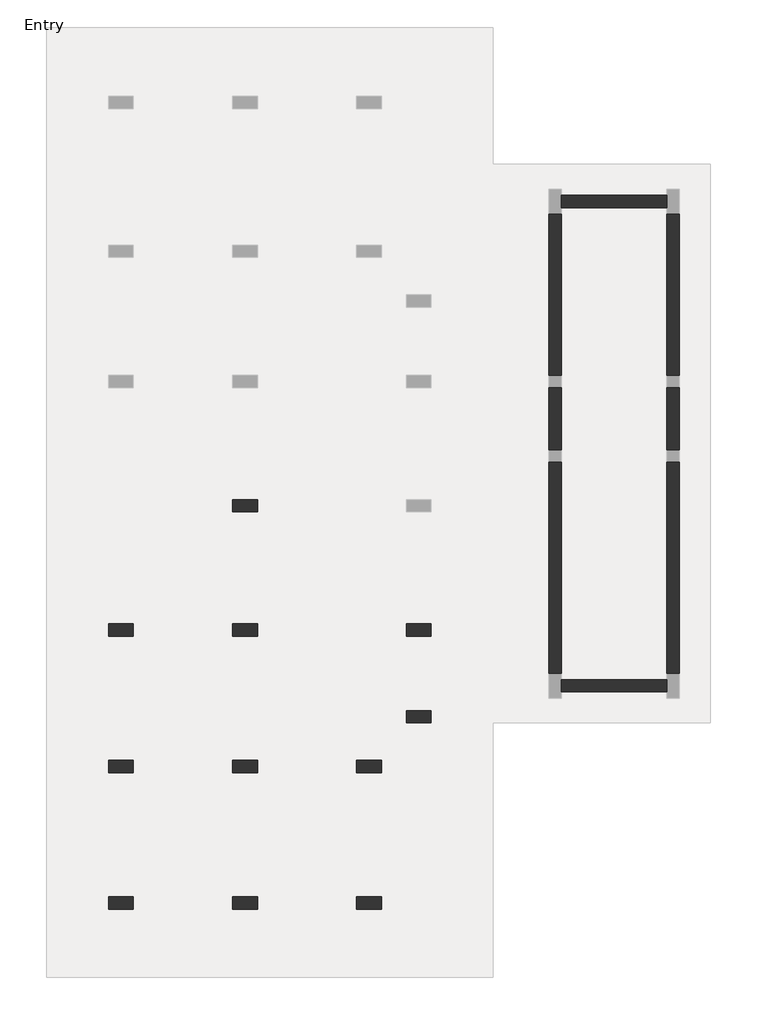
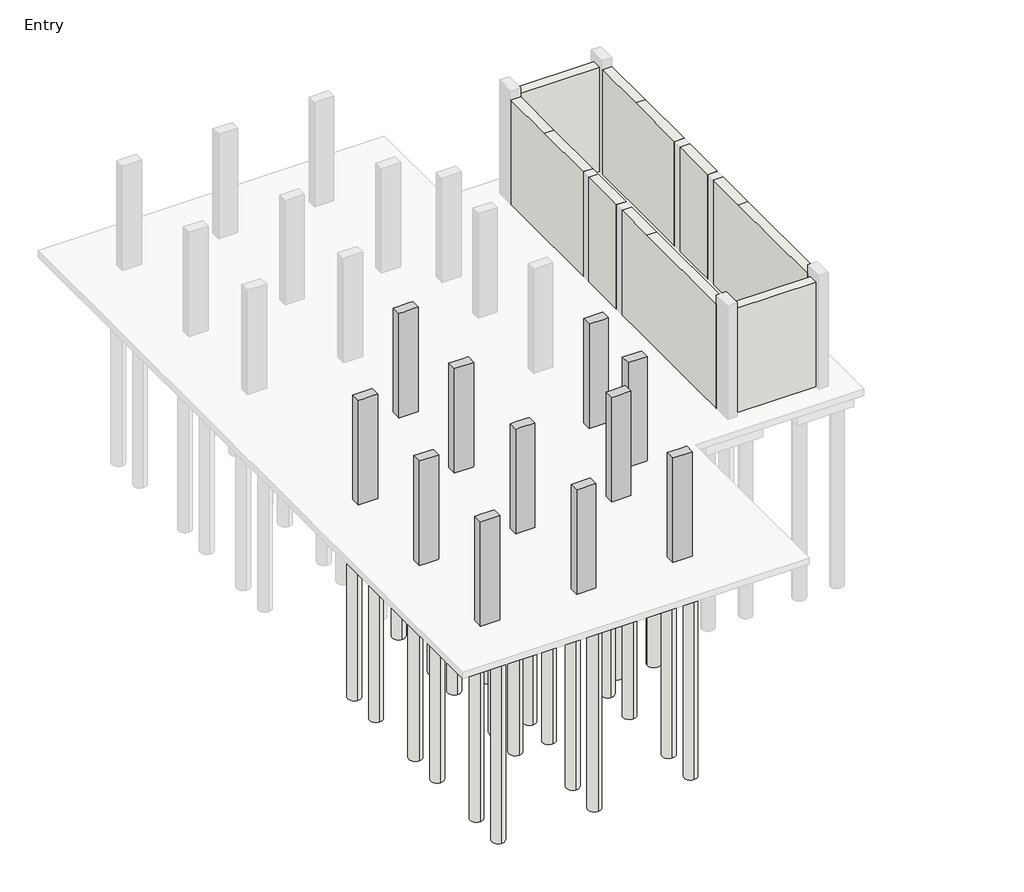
# One storey, part 1 of 3: 37 slabs, 11 columns, 8 walls.
"""IFC4 building model written with IfcOpenShell, lengths in millimetres."""

from ifc_helpers import new_model, si_unit, point, frame, frame_2d, origin, origin_with_axes, place, context, project, spatial, polyline, circle_curve, trimmed, segment, composite_curve, outline, extrude, faceted_brep, element, save

model = new_model("IFC4")

# Units and contexts
model_context = context("Model", 3, world=origin())
ifc_project = project(units=[si_unit("LENGTHUNIT", "METRE", prefix="MILLI")], contexts=[model_context])

# Site, building, storey
site = spatial("IfcSite", under=ifc_project)
building = spatial("IfcBuilding", under=site)
storey = spatial("IfcBuildingStorey", under=building, Name="Entry", Elevation=0.0)

# Columns
placement = place(None, origin())
element("IfcColumn", 1, ObjectType="Concrete-Rectangular-Column : 12 x 24", at=placement, inside=storey, context=model_context, shape_type="Brep", body=[
    faceted_brep([(-12629.5554735, 4740.9867088, 0.0), (-12019.9554735, 4740.9867088, 0.0), (-12019.9554735, 4436.1867088, 0.0), (-12629.5554735, 4436.1867088, 0.0), (-12629.5554735, 4740.9867088, 3505.2), (-12477.1554735, 4740.9867088, 3505.2), (-12172.3554735, 4740.9867088, 3505.2), (-12019.9554735, 4740.9867088, 3505.2), (-12019.9554735, 4740.9867088, 2895.6), (-12019.9554735, 4436.1867088, 3505.2), (-12019.9554735, 4436.1867088, 2895.6), (-12172.3554735, 4436.1867088, 3505.2), (-12477.1554735, 4436.1867088, 3505.2), (-12629.5554735, 4436.1867088, 3505.2)], [[[0, 1, 2, 3]], [[4, 5, 6, 7, 8, 1, 0]], [[7, 9, 10, 2, 1, 8]], [[9, 11, 12, 13, 3, 2, 10]], [[13, 4, 0, 3]], [[4, 13, 12, 11, 9, 7, 6, 5]]]),
])
element("IfcColumn", 2, ObjectType="Concrete-Rectangular-Column : 12 x 24", at=placement, inside=storey, context=model_context, shape_type="Brep", body=[
    faceted_brep([(-12629.5554735, 1692.9867088, 0.0), (-12019.9554735, 1692.9867088, 0.0), (-12019.9554735, 1388.1867088, 0.0), (-12629.5554735, 1388.1867088, 0.0), (-12629.5554735, 1692.9867088, 3505.2), (-12477.1554735, 1692.9867088, 3505.2), (-12172.3554735, 1692.9867088, 3505.2), (-12019.9554735, 1692.9867088, 3505.2), (-12019.9554735, 1692.9867088, 2895.6), (-12629.5554735, 1692.9867088, 2895.6), (-12019.9554735, 1388.1867088, 3505.2), (-12019.9554735, 1388.1867088, 2895.6), (-12172.3554735, 1388.1867088, 3505.2), (-12477.1554735, 1388.1867088, 3505.2), (-12629.5554735, 1388.1867088, 3505.2), (-12629.5554735, 1388.1867088, 2895.6)], [[[0, 1, 2, 3]], [[4, 5, 6, 7, 8, 1, 0, 9]], [[7, 10, 11, 2, 1, 8]], [[10, 12, 13, 14, 15, 3, 2, 11]], [[14, 4, 9, 0, 3, 15]], [[4, 14, 13, 12, 10, 7, 6, 5]]]),
])
element("IfcColumn", 3, ObjectType="Concrete-Rectangular-Column : 12 x 24", at=placement, inside=storey, context=model_context, shape_type="Brep", body=[
    faceted_brep([(-12629.5554735, -1659.8132912, 0.0), (-12019.9554735, -1659.8132912, 0.0), (-12019.9554735, -1964.6132912, 0.0), (-12629.5554735, -1964.6132912, 0.0), (-12629.5554735, -1659.8132912, 3505.2), (-12477.1554735, -1659.8132912, 3505.2), (-12172.3554735, -1659.8132912, 3505.2), (-12019.9554735, -1659.8132912, 3505.2), (-12019.9554735, -1659.8132912, 2895.6), (-12629.5554735, -1659.8132912, 2895.6), (-12019.9554735, -1964.6132912, 3505.2), (-12019.9554735, -1964.6132912, 2895.6), (-12172.3554735, -1964.6132912, 3505.2), (-12477.1554735, -1964.6132912, 3505.2), (-12629.5554735, -1964.6132912, 3505.2), (-12629.5554735, -1964.6132912, 2895.6)], [[[0, 1, 2, 3]], [[4, 5, 6, 7, 8, 1, 0, 9]], [[7, 10, 11, 2, 1, 8]], [[10, 12, 13, 14, 15, 3, 2, 11]], [[14, 4, 9, 0, 3, 15]], [[4, 14, 13, 12, 10, 7, 6, 5]]]),
])
element("IfcColumn", 4, ObjectType="Concrete-Rectangular-Column : 12 x 24", at=placement, inside=storey, context=model_context, shape_type="Brep", body=[
    faceted_brep([(-12629.5554735, -5012.6132912, 0.0), (-12019.9554735, -5012.6132912, 0.0), (-12019.9554735, -5317.4132912, 0.0), (-12629.5554735, -5317.4132912, 0.0), (-12629.5554735, -5012.6132912, 3505.2), (-12477.1554735, -5012.6132912, 3505.2), (-12172.3554735, -5012.6132912, 3505.2), (-12019.9554735, -5012.6132912, 3505.2), (-12019.9554735, -5012.6132912, 2895.6), (-12629.5554735, -5012.6132912, 2895.6), (-12019.9554735, -5317.4132912, 3505.2), (-12019.9554735, -5317.4132912, 2895.6), (-12629.5554735, -5317.4132912, 3505.2), (-12629.5554735, -5317.4132912, 2895.6)], [[[0, 1, 2, 3]], [[4, 5, 6, 7, 8, 1, 0, 9]], [[7, 10, 11, 2, 1, 8]], [[10, 12, 13, 3, 2, 11]], [[12, 4, 9, 0, 3, 13]], [[4, 12, 10, 7, 6, 5]]]),
])
element("IfcColumn", 5, ObjectType="Concrete-Rectangular-Column : 12 x 24", at=placement, inside=storey, context=model_context, shape_type="Brep", body=[
    faceted_brep([(-15677.5554735, -1659.8132912, 0.0), (-15067.9554735, -1659.8132912, 0.0), (-15067.9554735, -1964.6132912, 0.0), (-15677.5554735, -1964.6132912, 0.0), (-15677.5554735, -1659.8132912, 3505.2), (-15525.1554735, -1659.8132912, 3505.2), (-15220.3554735, -1659.8132912, 3505.2), (-15067.9554735, -1659.8132912, 3505.2), (-15067.9554735, -1659.8132912, 2895.6), (-15067.9554735, -1964.6132912, 3505.2), (-15067.9554735, -1964.6132912, 2895.6), (-15220.3554735, -1964.6132912, 3505.2), (-15525.1554735, -1964.6132912, 3505.2), (-15677.5554735, -1964.6132912, 3505.2)], [[[0, 1, 2, 3]], [[4, 5, 6, 7, 8, 1, 0]], [[7, 9, 10, 2, 1, 8]], [[9, 11, 12, 13, 3, 2, 10]], [[13, 4, 0, 3]], [[4, 13, 12, 11, 9, 7, 6, 5]]]),
])
element("IfcColumn", 6, ObjectType="Concrete-Rectangular-Column : 12 x 24", at=placement, inside=storey, context=model_context, shape_type="Brep", body=[
    faceted_brep([(-15677.5554735, -5012.6132912, 0.0), (-15067.9554735, -5012.6132912, 0.0), (-15067.9554735, -5317.4132912, 0.0), (-15677.5554735, -5317.4132912, 0.0), (-15677.5554735, -5012.6132912, 3505.2), (-15525.1554735, -5012.6132912, 3505.2), (-15220.3554735, -5012.6132912, 3505.2), (-15067.9554735, -5012.6132912, 3505.2), (-15067.9554735, -5012.6132912, 2895.6), (-15067.9554735, -5317.4132912, 3505.2), (-15067.9554735, -5317.4132912, 2895.6), (-15677.5554735, -5317.4132912, 3505.2)], [[[0, 1, 2, 3]], [[4, 5, 6, 7, 8, 1, 0]], [[7, 9, 10, 2, 1, 8]], [[9, 11, 3, 2, 10]], [[11, 4, 0, 3]], [[4, 11, 9, 7, 6, 5]]]),
])
element("IfcColumn", 7, ObjectType="Concrete-Rectangular-Column : 12 x 24", at=placement, inside=storey, context=model_context, shape_type="Brep", body=[
    faceted_brep([(-15677.5554735, 1692.9867088, 0.0), (-15067.9554735, 1692.9867088, 0.0), (-15067.9554735, 1388.1867088, 0.0), (-15677.5554735, 1388.1867088, 0.0), (-15677.5554735, 1692.9867088, 3505.2), (-15067.9554735, 1692.9867088, 3505.2), (-15067.9554735, 1692.9867088, 2895.6), (-15067.9554735, 1388.1867088, 3505.2), (-15067.9554735, 1388.1867088, 2895.6), (-15220.3554735, 1388.1867088, 3505.2), (-15525.1554735, 1388.1867088, 3505.2), (-15677.5554735, 1388.1867088, 3505.2)], [[[0, 1, 2, 3]], [[4, 5, 6, 1, 0]], [[5, 7, 8, 2, 1, 6]], [[7, 9, 10, 11, 3, 2, 8]], [[11, 4, 0, 3]], [[4, 11, 10, 9, 7, 5]]]),
])
element("IfcColumn", 8, ObjectType="Concrete-Rectangular-Column : 12 x 24", at=placement, inside=storey, context=model_context, shape_type="Brep", body=[
    faceted_brep([(-8362.3554735, 1692.9867088, 0.0), (-7752.7554735, 1692.9867088, 0.0), (-7752.7554735, 1388.1867088, 0.0), (-8362.3554735, 1388.1867088, 0.0), (-8362.3554735, 1692.9867088, 3505.2), (-8209.9554735, 1692.9867088, 3505.2), (-7905.1554735, 1692.9867088, 3505.2), (-7752.7554735, 1692.9867088, 3505.2), (-8362.3554735, 1692.9867088, 2895.6), (-7752.7554735, 1388.1867088, 3505.2), (-7905.1554735, 1388.1867088, 3505.2), (-8209.9554735, 1388.1867088, 3505.2), (-8362.3554735, 1388.1867088, 3505.2), (-8362.3554735, 1388.1867088, 2895.6)], [[[0, 1, 2, 3]], [[4, 5, 6, 7, 1, 0, 8]], [[7, 9, 2, 1]], [[9, 10, 11, 12, 13, 3, 2]], [[12, 4, 8, 0, 3, 13]], [[4, 12, 11, 10, 9, 7, 6, 5]]]),
])
element("IfcColumn", 9, ObjectType="Concrete-Rectangular-Column : 12 x 24", at=placement, inside=storey, context=model_context, shape_type="Brep", body=[
    faceted_brep([(-9581.5554735, -1659.8132912, 0.0), (-8971.9554735, -1659.8132912, 0.0), (-8971.9554735, -1964.6132912, 0.0), (-9581.5554735, -1964.6132912, 0.0), (-9581.5554735, -1659.8132912, 3505.2), (-9429.1554735, -1659.8132912, 3505.2), (-9124.3554735, -1659.8132912, 3505.2), (-8971.9554735, -1659.8132912, 3505.2), (-9581.5554735, -1659.8132912, 2895.6), (-8971.9554735, -1964.6132912, 3505.2), (-9124.3554735, -1964.6132912, 3505.2), (-9429.1554735, -1964.6132912, 3505.2), (-9581.5554735, -1964.6132912, 3505.2), (-9581.5554735, -1964.6132912, 2895.6)], [[[0, 1, 2, 3]], [[4, 5, 6, 7, 1, 0, 8]], [[7, 9, 2, 1]], [[9, 10, 11, 12, 13, 3, 2]], [[12, 4, 8, 0, 3, 13]], [[4, 12, 11, 10, 9, 7, 6, 5]]]),
])
element("IfcColumn", 10, ObjectType="Concrete-Rectangular-Column : 12 x 24", at=placement, inside=storey, context=model_context, shape_type="Brep", body=[
    faceted_brep([(-9581.5554735, -5012.6132912, 0.0), (-8971.9554735, -5012.6132912, 0.0), (-8971.9554735, -5317.4132912, 0.0), (-9581.5554735, -5317.4132912, 0.0), (-9581.5554735, -5012.6132912, 3505.2), (-9429.1554735, -5012.6132912, 3505.2), (-9124.3554735, -5012.6132912, 3505.2), (-8971.9554735, -5012.6132912, 3505.2), (-9581.5554735, -5012.6132912, 2895.6), (-8971.9554735, -5317.4132912, 3505.2), (-9581.5554735, -5317.4132912, 3505.2), (-9581.5554735, -5317.4132912, 2895.6)], [[[0, 1, 2, 3]], [[4, 5, 6, 7, 1, 0, 8]], [[7, 9, 2, 1]], [[9, 10, 11, 3, 2]], [[10, 4, 8, 0, 3, 11]], [[4, 10, 9, 7, 6, 5]]]),
])
element("IfcColumn", 11, ObjectType="Concrete-Rectangular-Column : 12 x 24", at=placement, inside=storey, context=model_context, shape_type="Brep", body=[
    faceted_brep([(-8362.3554735, -440.6132912, 0.0), (-7752.7554735, -440.6132912, 0.0), (-7752.7554735, -745.4132912, 0.0), (-8362.3554735, -745.4132912, 0.0), (-8362.3554735, -440.6132912, 3505.2), (-8209.9554735, -440.6132912, 3505.2), (-7905.1554735, -440.6132912, 3505.2), (-7752.7554735, -440.6132912, 3505.2), (-8362.3554735, -440.6132912, 2895.6), (-7752.7554735, -745.4132912, 3505.2), (-8362.3554735, -745.4132912, 3505.2), (-8362.3554735, -745.4132912, 2895.6)], [[[0, 1, 2, 3]], [[4, 5, 6, 7, 1, 0, 8]], [[7, 9, 2, 1]], [[9, 10, 11, 3, 2]], [[10, 4, 8, 0, 3, 11]], [[4, 10, 9, 7, 6, 5]]]),
])

# Slabs
element("IfcSlab", 12, ObjectType="Pile Cap-2 Pile : 31\"x61\"x35\"", at=placement, inside=storey, context=model_context, shape_type="SweptSolid", body=[
    extrude(outline(polyline([(-15779.1554735, 2442.2867088), (-14966.3554735, 2442.2867088), (-14966.3554735, 638.8867088), (-15779.1554735, 638.8867088), (-15779.1554735, 2442.2867088)])), frame((0.0, 0.0, -889.0), z_axis=(0.0, 0.0, 1.0), x_axis=(1.0, 0.0, 0.0)), (0.0, 0.0, 1.0), 685.8),
])
element("IfcSlab", 13, ObjectType="Pile Cap-2 Pile : 31\"x61\"x35\"", at=placement, inside=storey, context=model_context, shape_type="SweptSolid", body=[
    extrude(outline(polyline([(-15779.1554735, -910.5132912), (-14966.3554735, -910.5132912), (-14966.3554735, -2713.9132912), (-15779.1554735, -2713.9132912), (-15779.1554735, -910.5132912)])), frame((0.0, 0.0, -889.0), z_axis=(0.0, 0.0, 1.0), x_axis=(1.0, 0.0, 0.0)), (0.0, 0.0, 1.0), 685.8),
])
element("IfcSlab", 14, ObjectType="Pile Cap-2 Pile : 31\"x61\"x35\"", at=placement, inside=storey, context=model_context, shape_type="SweptSolid", body=[
    extrude(outline(polyline([(-15779.1554735, -4263.3132912), (-14966.3554735, -4263.3132912), (-14966.3554735, -6066.7132912), (-15779.1554735, -6066.7132912), (-15779.1554735, -4263.3132912)])), frame((0.0, 0.0, -889.0), z_axis=(0.0, 0.0, 1.0), x_axis=(1.0, 0.0, 0.0)), (0.0, 0.0, 1.0), 685.8),
])
element("IfcSlab", 15, ObjectType="Pile Cap-2 Pile : 31\"x61\"x35\"", at=placement, inside=storey, context=model_context, shape_type="SweptSolid", body=[
    extrude(outline(polyline([(-12731.1554735, -4263.3132912), (-11918.3554735, -4263.3132912), (-11918.3554735, -6066.7132912), (-12731.1554735, -6066.7132912), (-12731.1554735, -4263.3132912)])), frame((0.0, 0.0, -889.0), z_axis=(0.0, 0.0, 1.0), x_axis=(1.0, 0.0, 0.0)), (0.0, 0.0, 1.0), 685.8),
])
element("IfcSlab", 16, ObjectType="Pile Cap-2 Pile : 31\"x61\"x35\"", at=placement, inside=storey, context=model_context, shape_type="SweptSolid", body=[
    extrude(outline(polyline([(-9683.1554735, -4263.3132912), (-8870.3554735, -4263.3132912), (-8870.3554735, -6066.7132912), (-9683.1554735, -6066.7132912), (-9683.1554735, -4263.3132912)])), frame((0.0, 0.0, -889.0), z_axis=(0.0, 0.0, 1.0), x_axis=(1.0, 0.0, 0.0)), (0.0, 0.0, 1.0), 685.8),
])
element("IfcSlab", 17, ObjectType="Pile Cap-2 Pile : 31\"x61\"x35\"", at=placement, inside=storey, context=model_context, shape_type="Brep", body=[
    faceted_brep([(-9683.1554735, -910.5132912, -889.0), (-8959.2554735, -910.5132912, -889.0), (-8870.3554735, -910.5132912, -889.0), (-8870.3554735, -999.4132912, -889.0), (-8870.3554735, -2713.9132912, -889.0), (-9683.1554735, -2713.9132912, -889.0), (-9683.1554735, -2713.9132912, -203.2), (-9683.1554735, -910.5132912, -203.2), (-8870.3554735, -2713.9132912, -203.2), (-8870.3554735, -910.5132912, -203.2), (-8870.3554735, -999.4132912, -203.2), (-8959.2554735, -910.5132912, -203.2)], [[[0, 1, 2, 3, 4, 5]], [[0, 5, 6, 7]], [[5, 4, 8, 6]], [[4, 3, 2, 9, 10, 8]], [[2, 1, 0, 7, 11, 9]], [[7, 6, 8, 10, 9, 11]]]),
])
element("IfcSlab", 18, ObjectType="Pile Cap-2 Pile : 31\"x61\"x35\"", at=placement, inside=storey, context=model_context, shape_type="SweptSolid", body=[
    extrude(outline(polyline([(-8463.9554735, 2442.2867088), (-7651.1554735, 2442.2867088), (-7651.1554735, 638.8867088), (-8463.9554735, 638.8867088), (-8463.9554735, 2442.2867088)])), frame((0.0, 0.0, -889.0), z_axis=(0.0, 0.0, 1.0), x_axis=(1.0, 0.0, 0.0)), (0.0, 0.0, 1.0), 685.8),
])
element("IfcSlab", 19, ObjectType="Pile Cap-2 Pile : 31\"x61\"x35\"", at=placement, inside=storey, context=model_context, shape_type="SweptSolid", body=[
    extrude(outline(polyline([(-7155.8554735, -186.6132912), (-7155.8554735, -999.4132912), (-8870.3554735, -999.4132912), (-8870.3554735, -910.5132912), (-8959.2554735, -910.5132912), (-8959.2554735, -186.6132912), (-7155.8554735, -186.6132912)])), frame((0.0, 0.0, -889.0), z_axis=(0.0, 0.0, 1.0), x_axis=(1.0, 0.0, 0.0)), (0.0, 0.0, 1.0), 685.8),
])
element("IfcSlab", 20, ObjectType="Pile Cap-4 Pile : 72\"x72\"x35\"", at=placement, inside=storey, context=model_context, shape_type="SweptSolid", body=[
    extrude(outline(polyline([(-13239.1554735, 5502.9867088), (-11410.3554735, 5502.9867088), (-11410.3554735, 3674.1867088), (-13239.1554735, 3674.1867088), (-13239.1554735, 5502.9867088)])), frame((0.0, 0.0, -889.0), z_axis=(0.0, 0.0, 1.0), x_axis=(1.0, 0.0, 0.0)), (0.0, 0.0, 1.0), 685.8),
])
element("IfcSlab", 21, ObjectType="Pile Cap-4 Pile : 72\"x72\"x35\"", at=placement, inside=storey, context=model_context, shape_type="SweptSolid", body=[
    extrude(outline(polyline([(-13239.1554735, 2454.9867088), (-11410.3554735, 2454.9867088), (-11410.3554735, 626.1867088), (-13239.1554735, 626.1867088), (-13239.1554735, 2454.9867088)])), frame((0.0, 0.0, -889.0), z_axis=(0.0, 0.0, 1.0), x_axis=(1.0, 0.0, 0.0)), (0.0, 0.0, 1.0), 685.8),
])
element("IfcSlab", 22, ObjectType="Pile Cap-4 Pile : 72\"x72\"x35\"", at=placement, inside=storey, context=model_context, shape_type="SweptSolid", body=[
    extrude(outline(polyline([(-13239.1554735, -897.8132912), (-11410.3554735, -897.8132912), (-11410.3554735, -2726.6132912), (-13239.1554735, -2726.6132912), (-13239.1554735, -897.8132912)])), frame((0.0, 0.0, -889.0), z_axis=(0.0, 0.0, 1.0), x_axis=(1.0, 0.0, 0.0)), (0.0, 0.0, 1.0), 685.8),
])
element("IfcSlab", 23, ObjectType="Pile-Steel Pipe : 16\" Diameter", at=placement, inside=storey, context=model_context, shape_type="SweptSolid", body=[
    extrude(outline(composite_curve([segment(trimmed(circle_curve(frame_2d((-12858.1554735, 4055.1867088)), 203.2), [point((-12858.1554735, 3851.9867088))], [point((-12858.1554735, 4258.3867088))], False, "CARTESIAN"), True, "CONTINUOUS"), segment(trimmed(circle_curve(frame_2d((-12858.1554735, 4055.1867088)), 203.2), [point((-12858.1554735, 4258.3867088))], [point((-12858.1554735, 3851.9867088))], False, "CARTESIAN"), True, "CONTINUOUS")], self_intersect=False)), frame((0.0, 0.0, -6985.0), z_axis=(0.0, 0.0, 1.0), x_axis=(1.0, 0.0, 0.0)), (0.0, 0.0, 1.0), 6096.0),
])
element("IfcSlab", 24, ObjectType="Pile-Steel Pipe : 16\" Diameter", at=placement, inside=storey, context=model_context, shape_type="SweptSolid", body=[
    extrude(outline(composite_curve([segment(trimmed(circle_curve(frame_2d((-12858.1554735, 1007.1867088)), 203.2), [point((-12858.1554735, 803.9867088))], [point((-12858.1554735, 1210.3867088))], False, "CARTESIAN"), True, "CONTINUOUS"), segment(trimmed(circle_curve(frame_2d((-12858.1554735, 1007.1867088)), 203.2), [point((-12858.1554735, 1210.3867088))], [point((-12858.1554735, 803.9867088))], False, "CARTESIAN"), True, "CONTINUOUS")], self_intersect=False)), frame((0.0, 0.0, -6985.0), z_axis=(0.0, 0.0, 1.0), x_axis=(1.0, 0.0, 0.0)), (0.0, 0.0, 1.0), 6096.0),
])
element("IfcSlab", 25, ObjectType="Pile-Steel Pipe : 16\" Diameter", at=placement, inside=storey, context=model_context, shape_type="SweptSolid", body=[
    extrude(outline(composite_curve([segment(trimmed(circle_curve(frame_2d((-11791.3554735, 1007.1867088)), 203.2), [point((-11791.3554735, 803.9867088))], [point((-11791.3554735, 1210.3867088))], False, "CARTESIAN"), True, "CONTINUOUS"), segment(trimmed(circle_curve(frame_2d((-11791.3554735, 1007.1867088)), 203.2), [point((-11791.3554735, 1210.3867088))], [point((-11791.3554735, 803.9867088))], False, "CARTESIAN"), True, "CONTINUOUS")], self_intersect=False)), frame((0.0, 0.0, -6985.0), z_axis=(0.0, 0.0, 1.0), x_axis=(1.0, 0.0, 0.0)), (0.0, 0.0, 1.0), 6096.0),
])
element("IfcSlab", 26, ObjectType="Pile-Steel Pipe : 16\" Diameter", at=placement, inside=storey, context=model_context, shape_type="SweptSolid", body=[
    extrude(outline(composite_curve([segment(trimmed(circle_curve(frame_2d((-11791.3554735, 2073.9867088)), 203.2), [point((-11791.3554735, 1870.7867088))], [point((-11791.3554735, 2277.1867088))], False, "CARTESIAN"), True, "CONTINUOUS"), segment(trimmed(circle_curve(frame_2d((-11791.3554735, 2073.9867088)), 203.2), [point((-11791.3554735, 2277.1867088))], [point((-11791.3554735, 1870.7867088))], False, "CARTESIAN"), True, "CONTINUOUS")], self_intersect=False)), frame((0.0, 0.0, -6985.0), z_axis=(0.0, 0.0, 1.0), x_axis=(1.0, 0.0, 0.0)), (0.0, 0.0, 1.0), 6096.0),
])
element("IfcSlab", 27, ObjectType="Pile-Steel Pipe : 16\" Diameter", at=placement, inside=storey, context=model_context, shape_type="SweptSolid", body=[
    extrude(outline(composite_curve([segment(trimmed(circle_curve(frame_2d((-12858.1554735, 2073.9867088)), 203.2), [point((-12858.1554735, 1870.7867088))], [point((-12858.1554735, 2277.1867088))], False, "CARTESIAN"), True, "CONTINUOUS"), segment(trimmed(circle_curve(frame_2d((-12858.1554735, 2073.9867088)), 203.2), [point((-12858.1554735, 2277.1867088))], [point((-12858.1554735, 1870.7867088))], False, "CARTESIAN"), True, "CONTINUOUS")], self_intersect=False)), frame((0.0, 0.0, -6985.0), z_axis=(0.0, 0.0, 1.0), x_axis=(1.0, 0.0, 0.0)), (0.0, 0.0, 1.0), 6096.0),
])
element("IfcSlab", 28, ObjectType="Pile-Steel Pipe : 16\" Diameter", at=placement, inside=storey, context=model_context, shape_type="SweptSolid", body=[
    extrude(outline(composite_curve([segment(trimmed(circle_curve(frame_2d((-12858.1554735, -2345.6132912)), 203.2), [point((-12858.1554735, -2548.8132912))], [point((-12858.1554735, -2142.4132912))], False, "CARTESIAN"), True, "CONTINUOUS"), segment(trimmed(circle_curve(frame_2d((-12858.1554735, -2345.6132912)), 203.2), [point((-12858.1554735, -2142.4132912))], [point((-12858.1554735, -2548.8132912))], False, "CARTESIAN"), True, "CONTINUOUS")], self_intersect=False)), frame((0.0, 0.0, -6985.0), z_axis=(0.0, 0.0, 1.0), x_axis=(1.0, 0.0, 0.0)), (0.0, 0.0, 1.0), 6096.0),
])
element("IfcSlab", 29, ObjectType="Pile-Steel Pipe : 16\" Diameter", at=placement, inside=storey, context=model_context, shape_type="SweptSolid", body=[
    extrude(outline(composite_curve([segment(trimmed(circle_curve(frame_2d((-11791.3554735, -2345.6132912)), 203.2), [point((-11791.3554735, -2548.8132912))], [point((-11791.3554735, -2142.4132912))], False, "CARTESIAN"), True, "CONTINUOUS"), segment(trimmed(circle_curve(frame_2d((-11791.3554735, -2345.6132912)), 203.2), [point((-11791.3554735, -2142.4132912))], [point((-11791.3554735, -2548.8132912))], False, "CARTESIAN"), True, "CONTINUOUS")], self_intersect=False)), frame((0.0, 0.0, -6985.0), z_axis=(0.0, 0.0, 1.0), x_axis=(1.0, 0.0, 0.0)), (0.0, 0.0, 1.0), 6096.0),
])
element("IfcSlab", 30, ObjectType="Pile-Steel Pipe : 16\" Diameter", at=placement, inside=storey, context=model_context, shape_type="SweptSolid", body=[
    extrude(outline(composite_curve([segment(trimmed(circle_curve(frame_2d((-11791.3554735, -1278.8132912)), 203.2), [point((-11791.3554735, -1482.0132912))], [point((-11791.3554735, -1075.6132912))], False, "CARTESIAN"), True, "CONTINUOUS"), segment(trimmed(circle_curve(frame_2d((-11791.3554735, -1278.8132912)), 203.2), [point((-11791.3554735, -1075.6132912))], [point((-11791.3554735, -1482.0132912))], False, "CARTESIAN"), True, "CONTINUOUS")], self_intersect=False)), frame((0.0, 0.0, -6985.0), z_axis=(0.0, 0.0, 1.0), x_axis=(1.0, 0.0, 0.0)), (0.0, 0.0, 1.0), 6096.0),
])
element("IfcSlab", 31, ObjectType="Pile-Steel Pipe : 16\" Diameter", at=placement, inside=storey, context=model_context, shape_type="SweptSolid", body=[
    extrude(outline(composite_curve([segment(trimmed(circle_curve(frame_2d((-12858.1554735, -1278.8132912)), 203.2), [point((-12858.1554735, -1482.0132912))], [point((-12858.1554735, -1075.6132912))], False, "CARTESIAN"), True, "CONTINUOUS"), segment(trimmed(circle_curve(frame_2d((-12858.1554735, -1278.8132912)), 203.2), [point((-12858.1554735, -1075.6132912))], [point((-12858.1554735, -1482.0132912))], False, "CARTESIAN"), True, "CONTINUOUS")], self_intersect=False)), frame((0.0, 0.0, -6985.0), z_axis=(0.0, 0.0, 1.0), x_axis=(1.0, 0.0, 0.0)), (0.0, 0.0, 1.0), 6096.0),
])
element("IfcSlab", 32, ObjectType="Pile-Steel Pipe : 16\" Diameter", at=placement, inside=storey, context=model_context, shape_type="SweptSolid", body=[
    extrude(outline(composite_curve([segment(trimmed(circle_curve(frame_2d((-15372.7554735, 2137.4867088)), 203.2), [point((-15372.7554735, 1934.2867088))], [point((-15372.7554735, 2340.6867088))], False, "CARTESIAN"), True, "CONTINUOUS"), segment(trimmed(circle_curve(frame_2d((-15372.7554735, 2137.4867088)), 203.2), [point((-15372.7554735, 2340.6867088))], [point((-15372.7554735, 1934.2867088))], False, "CARTESIAN"), True, "CONTINUOUS")], self_intersect=False)), frame((0.0, 0.0, -6985.0), z_axis=(0.0, 0.0, 1.0), x_axis=(1.0, 0.0, 0.0)), (0.0, 0.0, 1.0), 6096.0),
])
element("IfcSlab", 33, ObjectType="Pile-Steel Pipe : 16\" Diameter", at=placement, inside=storey, context=model_context, shape_type="SweptSolid", body=[
    extrude(outline(composite_curve([segment(trimmed(circle_curve(frame_2d((-15372.7554735, 943.6867088)), 203.2), [point((-15372.7554735, 740.4867088))], [point((-15372.7554735, 1146.8867088))], False, "CARTESIAN"), True, "CONTINUOUS"), segment(trimmed(circle_curve(frame_2d((-15372.7554735, 943.6867088)), 203.2), [point((-15372.7554735, 1146.8867088))], [point((-15372.7554735, 740.4867088))], False, "CARTESIAN"), True, "CONTINUOUS")], self_intersect=False)), frame((0.0, 0.0, -6985.0), z_axis=(0.0, 0.0, 1.0), x_axis=(1.0, 0.0, 0.0)), (0.0, 0.0, 1.0), 6096.0),
])
element("IfcSlab", 34, ObjectType="Pile-Steel Pipe : 16\" Diameter", at=placement, inside=storey, context=model_context, shape_type="SweptSolid", body=[
    extrude(outline(composite_curve([segment(trimmed(circle_curve(frame_2d((-15372.7554735, -1215.3132912)), 203.2), [point((-15372.7554735, -1418.5132912))], [point((-15372.7554735, -1012.1132912))], False, "CARTESIAN"), True, "CONTINUOUS"), segment(trimmed(circle_curve(frame_2d((-15372.7554735, -1215.3132912)), 203.2), [point((-15372.7554735, -1012.1132912))], [point((-15372.7554735, -1418.5132912))], False, "CARTESIAN"), True, "CONTINUOUS")], self_intersect=False)), frame((0.0, 0.0, -6985.0), z_axis=(0.0, 0.0, 1.0), x_axis=(1.0, 0.0, 0.0)), (0.0, 0.0, 1.0), 6096.0),
])
element("IfcSlab", 35, ObjectType="Pile-Steel Pipe : 16\" Diameter", at=placement, inside=storey, context=model_context, shape_type="SweptSolid", body=[
    extrude(outline(composite_curve([segment(trimmed(circle_curve(frame_2d((-15372.7554735, -2409.1132912)), 203.2), [point((-15372.7554735, -2612.3132912))], [point((-15372.7554735, -2205.9132912))], False, "CARTESIAN"), True, "CONTINUOUS"), segment(trimmed(circle_curve(frame_2d((-15372.7554735, -2409.1132912)), 203.2), [point((-15372.7554735, -2205.9132912))], [point((-15372.7554735, -2612.3132912))], False, "CARTESIAN"), True, "CONTINUOUS")], self_intersect=False)), frame((0.0, 0.0, -6985.0), z_axis=(0.0, 0.0, 1.0), x_axis=(1.0, 0.0, 0.0)), (0.0, 0.0, 1.0), 6096.0),
])
element("IfcSlab", 36, ObjectType="Pile-Steel Pipe : 16\" Diameter", at=placement, inside=storey, context=model_context, shape_type="SweptSolid", body=[
    extrude(outline(composite_curve([segment(trimmed(circle_curve(frame_2d((-15372.7554735, -4568.1132912)), 203.2), [point((-15372.7554735, -4771.3132912))], [point((-15372.7554735, -4364.9132912))], False, "CARTESIAN"), True, "CONTINUOUS"), segment(trimmed(circle_curve(frame_2d((-15372.7554735, -4568.1132912)), 203.2), [point((-15372.7554735, -4364.9132912))], [point((-15372.7554735, -4771.3132912))], False, "CARTESIAN"), True, "CONTINUOUS")], self_intersect=False)), frame((0.0, 0.0, -6985.0), z_axis=(0.0, 0.0, 1.0), x_axis=(1.0, 0.0, 0.0)), (0.0, 0.0, 1.0), 6096.0),
])
element("IfcSlab", 37, ObjectType="Pile-Steel Pipe : 16\" Diameter", at=placement, inside=storey, context=model_context, shape_type="SweptSolid", body=[
    extrude(outline(composite_curve([segment(trimmed(circle_curve(frame_2d((-15372.7554735, -5761.9132912)), 203.2), [point((-15372.7554735, -5965.1132912))], [point((-15372.7554735, -5558.7132912))], False, "CARTESIAN"), True, "CONTINUOUS"), segment(trimmed(circle_curve(frame_2d((-15372.7554735, -5761.9132912)), 203.2), [point((-15372.7554735, -5558.7132912))], [point((-15372.7554735, -5965.1132912))], False, "CARTESIAN"), True, "CONTINUOUS")], self_intersect=False)), frame((0.0, 0.0, -6985.0), z_axis=(0.0, 0.0, 1.0), x_axis=(1.0, 0.0, 0.0)), (0.0, 0.0, 1.0), 6096.0),
])
element("IfcSlab", 38, ObjectType="Pile-Steel Pipe : 16\" Diameter", at=placement, inside=storey, context=model_context, shape_type="SweptSolid", body=[
    extrude(outline(composite_curve([segment(trimmed(circle_curve(frame_2d((-12324.7554735, -4568.1132912)), 203.2), [point((-12324.7554735, -4771.3132912))], [point((-12324.7554735, -4364.9132912))], False, "CARTESIAN"), True, "CONTINUOUS"), segment(trimmed(circle_curve(frame_2d((-12324.7554735, -4568.1132912)), 203.2), [point((-12324.7554735, -4364.9132912))], [point((-12324.7554735, -4771.3132912))], False, "CARTESIAN"), True, "CONTINUOUS")], self_intersect=False)), frame((0.0, 0.0, -6985.0), z_axis=(0.0, 0.0, 1.0), x_axis=(1.0, 0.0, 0.0)), (0.0, 0.0, 1.0), 6096.0),
])
element("IfcSlab", 39, ObjectType="Pile-Steel Pipe : 16\" Diameter", at=placement, inside=storey, context=model_context, shape_type="SweptSolid", body=[
    extrude(outline(composite_curve([segment(trimmed(circle_curve(frame_2d((-12324.7554735, -5761.9132912)), 203.2), [point((-12324.7554735, -5965.1132912))], [point((-12324.7554735, -5558.7132912))], False, "CARTESIAN"), True, "CONTINUOUS"), segment(trimmed(circle_curve(frame_2d((-12324.7554735, -5761.9132912)), 203.2), [point((-12324.7554735, -5558.7132912))], [point((-12324.7554735, -5965.1132912))], False, "CARTESIAN"), True, "CONTINUOUS")], self_intersect=False)), frame((0.0, 0.0, -6985.0), z_axis=(0.0, 0.0, 1.0), x_axis=(1.0, 0.0, 0.0)), (0.0, 0.0, 1.0), 6096.0),
])
element("IfcSlab", 40, ObjectType="Pile-Steel Pipe : 16\" Diameter", at=placement, inside=storey, context=model_context, shape_type="SweptSolid", body=[
    extrude(outline(composite_curve([segment(trimmed(circle_curve(frame_2d((-9276.7554735, -4568.1132912)), 203.2), [point((-9276.7554735, -4771.3132912))], [point((-9276.7554735, -4364.9132912))], False, "CARTESIAN"), True, "CONTINUOUS"), segment(trimmed(circle_curve(frame_2d((-9276.7554735, -4568.1132912)), 203.2), [point((-9276.7554735, -4364.9132912))], [point((-9276.7554735, -4771.3132912))], False, "CARTESIAN"), True, "CONTINUOUS")], self_intersect=False)), frame((0.0, 0.0, -6985.0), z_axis=(0.0, 0.0, 1.0), x_axis=(1.0, 0.0, 0.0)), (0.0, 0.0, 1.0), 6096.0),
])
element("IfcSlab", 41, ObjectType="Pile-Steel Pipe : 16\" Diameter", at=placement, inside=storey, context=model_context, shape_type="SweptSolid", body=[
    extrude(outline(composite_curve([segment(trimmed(circle_curve(frame_2d((-9276.7554735, -5761.9132912)), 203.2), [point((-9276.7554735, -5965.1132912))], [point((-9276.7554735, -5558.7132912))], False, "CARTESIAN"), True, "CONTINUOUS"), segment(trimmed(circle_curve(frame_2d((-9276.7554735, -5761.9132912)), 203.2), [point((-9276.7554735, -5558.7132912))], [point((-9276.7554735, -5965.1132912))], False, "CARTESIAN"), True, "CONTINUOUS")], self_intersect=False)), frame((0.0, 0.0, -6985.0), z_axis=(0.0, 0.0, 1.0), x_axis=(1.0, 0.0, 0.0)), (0.0, 0.0, 1.0), 6096.0),
])
element("IfcSlab", 42, ObjectType="Pile-Steel Pipe : 16\" Diameter", at=placement, inside=storey, context=model_context, shape_type="SweptSolid", body=[
    extrude(outline(composite_curve([segment(trimmed(circle_curve(frame_2d((-9276.7554735, -1215.3132912)), 203.2), [point((-9276.7554735, -1418.5132912))], [point((-9276.7554735, -1012.1132912))], False, "CARTESIAN"), True, "CONTINUOUS"), segment(trimmed(circle_curve(frame_2d((-9276.7554735, -1215.3132912)), 203.2), [point((-9276.7554735, -1012.1132912))], [point((-9276.7554735, -1418.5132912))], False, "CARTESIAN"), True, "CONTINUOUS")], self_intersect=False)), frame((0.0, 0.0, -6985.0), z_axis=(0.0, 0.0, 1.0), x_axis=(1.0, 0.0, 0.0)), (0.0, 0.0, 1.0), 6096.0),
])
element("IfcSlab", 43, ObjectType="Pile-Steel Pipe : 16\" Diameter", at=placement, inside=storey, context=model_context, shape_type="SweptSolid", body=[
    extrude(outline(composite_curve([segment(trimmed(circle_curve(frame_2d((-9276.7554735, -2409.1132912)), 203.2), [point((-9276.7554735, -2612.3132912))], [point((-9276.7554735, -2205.9132912))], False, "CARTESIAN"), True, "CONTINUOUS"), segment(trimmed(circle_curve(frame_2d((-9276.7554735, -2409.1132912)), 203.2), [point((-9276.7554735, -2205.9132912))], [point((-9276.7554735, -2612.3132912))], False, "CARTESIAN"), True, "CONTINUOUS")], self_intersect=False)), frame((0.0, 0.0, -6985.0), z_axis=(0.0, 0.0, 1.0), x_axis=(1.0, 0.0, 0.0)), (0.0, 0.0, 1.0), 6096.0),
])
element("IfcSlab", 44, ObjectType="Pile-Steel Pipe : 16\" Diameter", at=placement, inside=storey, context=model_context, shape_type="SweptSolid", body=[
    extrude(outline(composite_curve([segment(trimmed(circle_curve(frame_2d((-8057.5554735, 2137.4867088)), 203.2), [point((-8057.5554735, 1934.2867088))], [point((-8057.5554735, 2340.6867088))], False, "CARTESIAN"), True, "CONTINUOUS"), segment(trimmed(circle_curve(frame_2d((-8057.5554735, 2137.4867088)), 203.2), [point((-8057.5554735, 2340.6867088))], [point((-8057.5554735, 1934.2867088))], False, "CARTESIAN"), True, "CONTINUOUS")], self_intersect=False)), frame((0.0, 0.0, -6985.0), z_axis=(0.0, 0.0, 1.0), x_axis=(1.0, 0.0, 0.0)), (0.0, 0.0, 1.0), 6096.0),
])
element("IfcSlab", 45, ObjectType="Pile-Steel Pipe : 16\" Diameter", at=placement, inside=storey, context=model_context, shape_type="SweptSolid", body=[
    extrude(outline(composite_curve([segment(trimmed(circle_curve(frame_2d((-8057.5554735, 943.6867088)), 203.2), [point((-8057.5554735, 740.4867088))], [point((-8057.5554735, 1146.8867088))], False, "CARTESIAN"), True, "CONTINUOUS"), segment(trimmed(circle_curve(frame_2d((-8057.5554735, 943.6867088)), 203.2), [point((-8057.5554735, 1146.8867088))], [point((-8057.5554735, 740.4867088))], False, "CARTESIAN"), True, "CONTINUOUS")], self_intersect=False)), frame((0.0, 0.0, -6985.0), z_axis=(0.0, 0.0, 1.0), x_axis=(1.0, 0.0, 0.0)), (0.0, 0.0, 1.0), 6096.0),
])
element("IfcSlab", 46, ObjectType="Pile-Steel Pipe : 16\" Diameter", at=placement, inside=storey, context=model_context, shape_type="SweptSolid", body=[
    extrude(outline(composite_curve([segment(trimmed(circle_curve(frame_2d((-8057.5554735, 3991.6867088)), 203.2), [point((-8057.5554735, 3788.4867088))], [point((-8057.5554735, 4194.8867088))], False, "CARTESIAN"), True, "CONTINUOUS"), segment(trimmed(circle_curve(frame_2d((-8057.5554735, 3991.6867088)), 203.2), [point((-8057.5554735, 4194.8867088))], [point((-8057.5554735, 3788.4867088))], False, "CARTESIAN"), True, "CONTINUOUS")], self_intersect=False)), frame((0.0, 0.0, -6985.0), z_axis=(0.0, 0.0, 1.0), x_axis=(1.0, 0.0, 0.0)), (0.0, 0.0, 1.0), 6096.0),
])
element("IfcSlab", 47, ObjectType="Pile-Steel Pipe : 16\" Diameter", at=placement, inside=storey, context=model_context, shape_type="SweptSolid", body=[
    extrude(outline(composite_curve([segment(trimmed(circle_curve(frame_2d((-7460.6554735, -593.0132912)), 203.2), [point((-7663.8554735, -593.0132912))], [point((-7257.4554735, -593.0132912))], False, "CARTESIAN"), True, "CONTINUOUS"), segment(trimmed(circle_curve(frame_2d((-7460.6554735, -593.0132912)), 203.2), [point((-7257.4554735, -593.0132912))], [point((-7663.8554735, -593.0132912))], False, "CARTESIAN"), True, "CONTINUOUS")], self_intersect=False)), frame((0.0, 0.0, -6985.0), z_axis=(0.0, 0.0, 1.0), x_axis=(1.0, 0.0, 0.0)), (0.0, 0.0, 1.0), 6096.0),
])
element("IfcSlab", 48, ObjectType="Pile-Steel Pipe : 16\" Diameter", at=placement, inside=storey, context=model_context, shape_type="SweptSolid", body=[
    extrude(outline(composite_curve([segment(trimmed(circle_curve(frame_2d((-8654.4554735, -593.0132912)), 203.2), [point((-8857.6554735, -593.0132912))], [point((-8451.2554735, -593.0132912))], False, "CARTESIAN"), True, "CONTINUOUS"), segment(trimmed(circle_curve(frame_2d((-8654.4554735, -593.0132912)), 203.2), [point((-8451.2554735, -593.0132912))], [point((-8857.6554735, -593.0132912))], False, "CARTESIAN"), True, "CONTINUOUS")], self_intersect=False)), frame((0.0, 0.0, -6985.0), z_axis=(0.0, 0.0, 1.0), x_axis=(1.0, 0.0, 0.0)), (0.0, 0.0, 1.0), 6096.0),
])

# Walls
element("IfcWall", 49, ObjectType="Core-Shaft - 12\" Concrete", at=placement, inside=storey, context=model_context, shape_type="SweptSolid", body=[
    extrude(outline(polyline([(-1961.5554735, 11903.7867088), (-4552.3554735, 11903.7867088), (-4552.3554735, 12208.5867088), (-1961.5554735, 12208.5867088), (-1961.5554735, 11903.7867088)])), origin_with_axes(), (0.0, 0.0, 1.0), 3505.2),
])
element("IfcWall", 50, ObjectType="Core-Shaft - 12\" Concrete", at=placement, inside=storey, context=model_context, shape_type="SweptSolid", body=[
    extrude(outline(polyline([(11751.3867088, 0.0), (7788.9867088, 0.0), (7788.9867088, 3505.2), (9922.5867088, 3505.2), (11751.3867088, 3505.2), (11751.3867088, 0.0)])), frame((-1961.5554735, 0.0, 0.0), z_axis=(1.0, 0.0, 0.0), x_axis=(0.0, 1.0, 0.0)), (0.0, 0.0, 1.0), 304.8),
])
element("IfcWall", 51, ObjectType="Core-Shaft - 12\" Concrete", at=placement, inside=storey, context=model_context, shape_type="SweptSolid", body=[
    extrude(outline(polyline([(-1961.5554735, 5960.1867088), (-1961.5554735, 7484.1867088), (-1656.7554735, 7484.1867088), (-1656.7554735, 5960.1867088), (-1961.5554735, 5960.1867088)])), origin_with_axes(), (0.0, 0.0, 1.0), 3505.2),
])
element("IfcWall", 52, ObjectType="Core-Shaft - 12\" Concrete", at=placement, inside=storey, context=model_context, shape_type="SweptSolid", body=[
    extrude(outline(polyline([(7788.9867088, 0.0), (7788.9867088, 3505.2), (9922.5867088, 3505.2), (11751.3867088, 3505.2), (11751.3867088, 0.0), (7788.9867088, 0.0)])), frame((-4857.1554735, 0.0, 0.0), z_axis=(1.0, 0.0, 0.0), x_axis=(0.0, 1.0, 0.0)), (0.0, 0.0, 1.0), 304.8),
])
element("IfcWall", 53, ObjectType="Core-Shaft - 12\" Concrete", at=placement, inside=storey, context=model_context, shape_type="SweptSolid", body=[
    extrude(outline(polyline([(5655.3867088, 0.0), (473.7867088, 0.0), (473.7867088, 3505.2), (4283.7867088, 3505.2), (5655.3867088, 3505.2), (5655.3867088, 0.0)])), frame((-4857.1554735, 0.0, 0.0), z_axis=(1.0, 0.0, 0.0), x_axis=(0.0, 1.0, 0.0)), (0.0, 0.0, 1.0), 304.8),
])
element("IfcWall", 54, ObjectType="Core-Shaft - 12\" Concrete", at=placement, inside=storey, context=model_context, shape_type="SweptSolid", body=[
    extrude(outline(polyline([(-1961.5554735, 16.5867088), (-4552.3554735, 16.5867088), (-4552.3554735, 321.3867088), (-1961.5554735, 321.3867088), (-1961.5554735, 16.5867088)])), origin_with_axes(), (0.0, 0.0, 1.0), 3505.2),
])
element("IfcWall", 55, ObjectType="Core-Shaft - 12\" Concrete", at=placement, inside=storey, context=model_context, shape_type="SweptSolid", body=[
    extrude(outline(polyline([(473.7867088, 0.0), (473.7867088, 3505.2), (4283.7867088, 3505.2), (5655.3867088, 3505.2), (5655.3867088, 0.0), (473.7867088, 0.0)])), frame((-1961.5554735, 0.0, 0.0), z_axis=(1.0, 0.0, 0.0), x_axis=(0.0, 1.0, 0.0)), (0.0, 0.0, 1.0), 304.8),
])
element("IfcWall", 56, ObjectType="Core-Shaft - 12\" Concrete", at=placement, inside=storey, context=model_context, shape_type="SweptSolid", body=[
    extrude(outline(polyline([(-4857.1554735, 5960.1867088), (-4857.1554735, 7484.1867088), (-4552.3554735, 7484.1867088), (-4552.3554735, 5960.1867088), (-4857.1554735, 5960.1867088)])), origin_with_axes(), (0.0, 0.0, 1.0), 3505.2),
])

save(model, "model.ifc")
